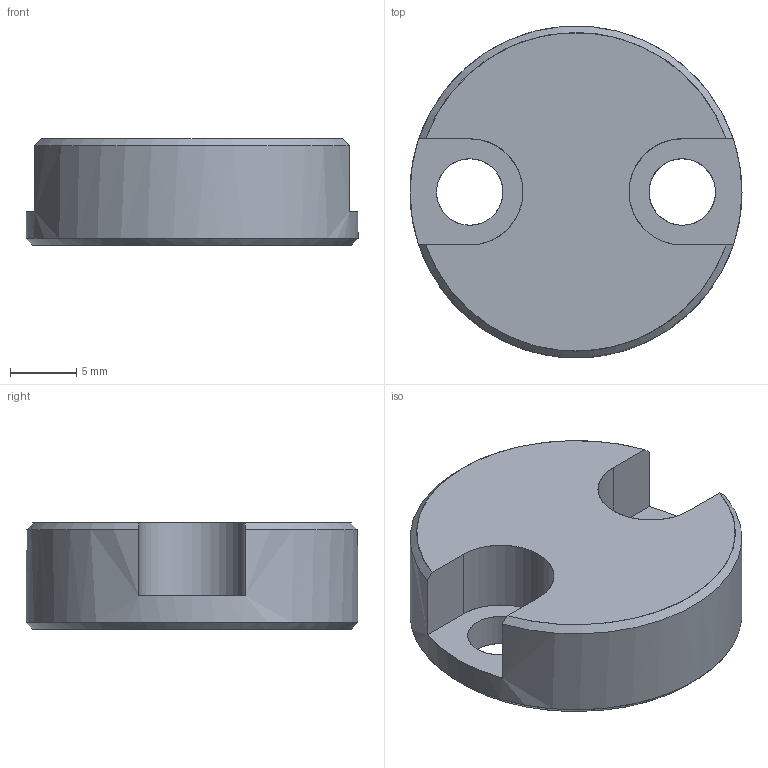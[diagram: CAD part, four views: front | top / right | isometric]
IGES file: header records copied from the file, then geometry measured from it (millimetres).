
Global section: file name: E:\UnigraphicsGraphicData\MISUMI_MOLD-PARTS\NX\3d_cphp25_02855_r00.igs; native system: NX V5.0; preprocessor: UGS NX IGES V5.0; author: MISUMI; date: 20101115.182528; units: millimetre
Bounding box: 25 x 24.99 x 8 mm (x, y, z)
Surface area: 1702.7 mm2 (no closed solid volume)
Topology: 0 solids, 0 shells, 16 faces, 138 edges, 135 vertices
Faces by surface type: bspline 16
